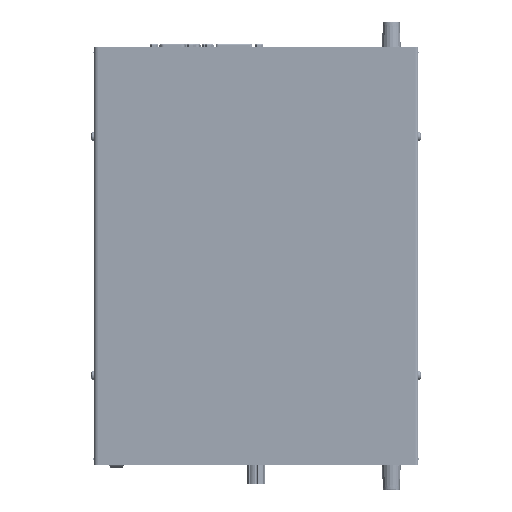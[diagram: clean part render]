
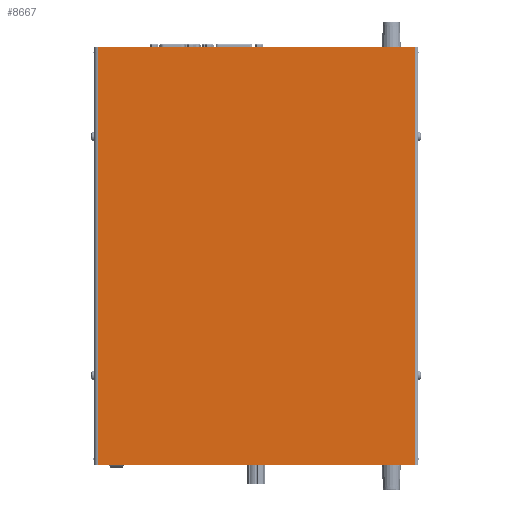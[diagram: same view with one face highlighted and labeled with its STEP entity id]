
A CAD part, top view. The second image highlights one B-rep face of the part: STEP entity #8667.
In plain terms, the highlighted planar face has unit normal (0, 0, 1).
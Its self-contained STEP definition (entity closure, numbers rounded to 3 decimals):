
#8667=ADVANCED_FACE('',(#22449),#22450,.T.);
#22449=FACE_OUTER_BOUND('',#41656,.T.);
#22450=PLANE('',#41657);
#41656=EDGE_LOOP('',(#77399,#77400,#77401,#77402));
#41657=AXIS2_PLACEMENT_3D('',#77403,#77404,#77405);
#77399=ORIENTED_EDGE('',*,*,#127575,.F.);
#77400=ORIENTED_EDGE('',*,*,#127610,.F.);
#77401=ORIENTED_EDGE('',*,*,#127570,.F.);
#77402=ORIENTED_EDGE('',*,*,#127598,.F.);
#77403=CARTESIAN_POINT('',(110.782,156.85,55.75));
#77404=DIRECTION('',(-0.0,0.0,1.0));
#77405=DIRECTION('',(1.0,0.,0.0));
#127570=EDGE_CURVE('',#151620,#151622,#151623,.T.);
#127575=EDGE_CURVE('',#151629,#151631,#151632,.T.);
#127598=EDGE_CURVE('',#151631,#151620,#151665,.T.);
#127610=EDGE_CURVE('',#151622,#151629,#151684,.T.);
#151620=VERTEX_POINT('',#185364);
#151622=VERTEX_POINT('',#185366);
#151623=LINE('',#185367,#185368);
#151629=VERTEX_POINT('',#185375);
#151631=VERTEX_POINT('',#185377);
#151632=LINE('',#185378,#185379);
#151665=LINE('',#185417,#185418);
#151684=LINE('',#185444,#185445);
#185364=CARTESIAN_POINT('',(5.032,16.85,55.75));
#185366=CARTESIAN_POINT('',(5.032,296.85,55.75));
#185367=CARTESIAN_POINT('',(5.032,156.85,55.75));
#185368=VECTOR('',#231837,1.0);
#185375=CARTESIAN_POINT('',(217.532,296.85,55.75));
#185377=CARTESIAN_POINT('',(217.532,16.85,55.75));
#185378=CARTESIAN_POINT('',(217.532,156.85,55.75));
#185379=VECTOR('',#231845,1.0);
#185417=CARTESIAN_POINT('',(219.532,16.85,55.75));
#185418=VECTOR('',#231884,1.0);
#185444=CARTESIAN_POINT('',(2.032,296.85,55.75));
#185445=VECTOR('',#231901,1.0);
#231837=DIRECTION('',(0.,1.0,0.0));
#231845=DIRECTION('',(0.,-1.0,0.0));
#231884=DIRECTION('',(-1.0,0.,0.0));
#231901=DIRECTION('',(1.0,0.,0.0));
